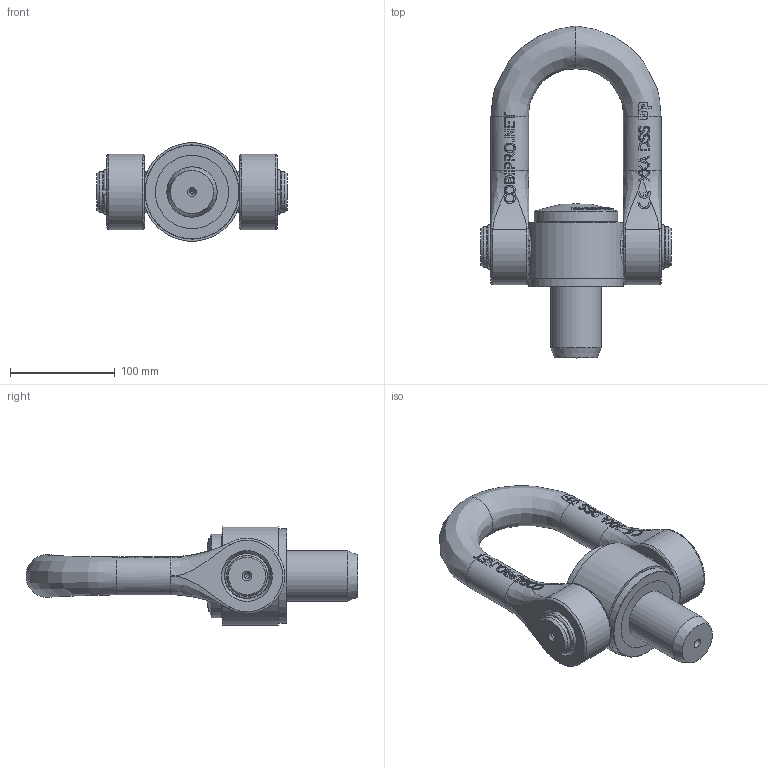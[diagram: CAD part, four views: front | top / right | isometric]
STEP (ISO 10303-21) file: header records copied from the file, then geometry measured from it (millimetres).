
FILE_DESCRIPTION(/* description */ (''),/* implementation_level */ '2;1');
FILE_NAME(/* name */ 'W:\CODIPRO\DOCUMENTS\Plans A NE PAS DIFFUSER !!!\Fichier STEP Modelisé\Gamme UP\Produits UP\DSS UP\DSS M48 UP.stp',/* time_stamp */ '2017-09-20T08:45:43+02:00',/* author */ ('rklenes'),/* organization */ (''),/* preprocessor_version */ 'ST-DEVELOPER v16.5',/* originating_system */ 'Autodesk Inventor 2017',/* authorisation */ '');
FILE_SCHEMA (('AUTOMOTIVE_DESIGN { 1 0 10303 214 3 1 1 }'));
Length unit declared in the file: millimetre
Products named in the file (7): DSS M48 UP; DSS_N4BISX64; DSM_N4X64; DSM_N4; DIN 7993 - A 40; DSA_M48X130_UP; DSE_M48A_UP
Assembly tree (7 placements, depth 3):
  DSS M48 UP
    DSS_N4BISX64
      DSM_N4X64
      DSM_N4
      DIN 7993 - A 40  x2
    DSA_M48X130_UP
    DSE_M48A_UP
Bounding box: 182 x 317 x 93.66 mm (x, y, z)
Volume: 1353996.9 mm3; surface area: 188622.6 mm2
Topology: 6 solids, 6 shells, 828 faces, 2253 edges, 1491 vertices
Faces by surface type: plane 374, bspline 287, cylinder 81, cone 69, torus 17
Full cylindrical faces by diameter (mm): 4 x1, 4.917 x2, 36 x2, 39 x4, 40.2 x2, 48 x4, 48.2 x1, 63.7 x2, 64 x3, 80 x1, 90 x1
Entity records: 32122 total; most frequent: CARTESIAN_POINT 13256, ORIENTED_EDGE 4348, DIRECTION 3013, EDGE_CURVE 2174, VERTEX_POINT 1475, AXIS2_PLACEMENT_3D 1061, EDGE_LOOP 949, LINE 891
